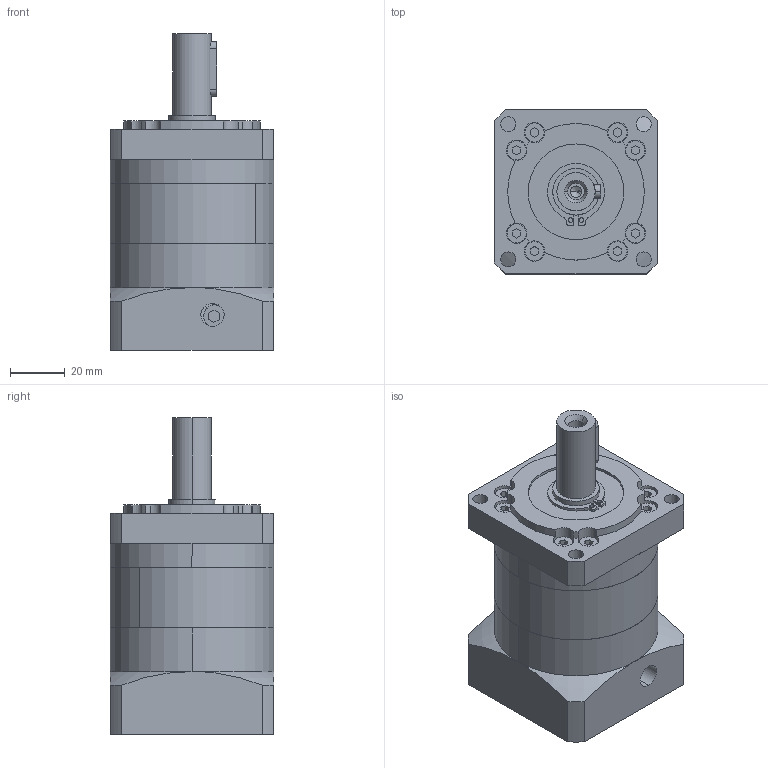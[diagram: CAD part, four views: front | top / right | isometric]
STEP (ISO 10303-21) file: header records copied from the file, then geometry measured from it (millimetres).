
FILE_DESCRIPTION (( 'STEP AP203' ), '1' );
FILE_NAME ('PLF060-L1-5-57-6.35x31.STEP', '2020-11-28T03:33:47', ( 'USER-' ), ( 'MS' ), 'SwSTEP 2.0', 'SolidWorks 2018', '' );
FILE_SCHEMA (( 'CONFIG_CONTROL_DESIGN' ));
Length unit declared in the file: millimetre
Products named in the file (9): PRF60-_B____-38.1-M4-66.6-____8_D8-50 D9-70 D10-M10 L4-22 L6-32(22+10) L7-4 A2-60 R-39.5 ____^PLF060-L1-5-57-8x31(2)_PLF060-L1-5-57-8x31; ______ 5x5x20^PLF060-L1-5-57-8x31(2)_PLF060-L1-5-57-8x31; ____-6004 20x42x12^PLF060-L1-5-57-8x31(2)_PLF060-L1-5-57-8x31; PLF060-L1-5-57-8x31(2)^PLF060-L1-5-57-8x31; PLF060-L1-5-57-6.35x31; __________ M5__16^PLF060-L1-5-57-8x31(2)_PLF060-L1-5-57-8x31; PRF60 _________________^PLF060-L1-5-57-8x31(2)_PLF060-L1-5-57-8x31; PRF60 ___w___D1-70 D2-5.5 D3-14 D4-17 D5-50 L1-30 L2-35 L3-3 A1-60 S1-3 S2-20 S3-5 S4-18 B-5 H-16 C-M5 ____^PLF060-L1-5-57-8x31(2)_PLF060-L1-5-57-8x31; PRF60 ___w__-8_D6-60 D7-14 ____^PLF060-L1-5-57-8x31(2)_PLF060-L1-5-57-8x31
Assembly tree (8 placements, depth 3):
  PLF060-L1-5-57-6.35x31
    PLF060-L1-5-57-8x31(2)^PLF060-L1-5-57-8x31
      __________ M5__16^PLF060-L1-5-57-8x31(2)_PLF060-L1-5-57-8x31
      PRF60 _________________^PLF060-L1-5-57-8x31(2)_PLF060-L1-5-57-8x31
      PRF60 ___w___D1-70 D2-5.5 D3-14 D4-17 D5-50 L1-30 L2-35 L3-3 A1-60 S1-3 S2-20 S3-5 S4-18 B-5 H-16 C-M5 ____^PLF060-L1-5-57-8x31(2)_PLF060-L1-5-57-8x31
      PRF60 ___w__-8_D6-60 D7-14 ____^PLF060-L1-5-57-8x31(2)_PLF060-L1-5-57-8x31
      PRF60-_B____-38.1-M4-66.6-____8_D8-50 D9-70 D10-M10 L4-22 L6-32(22+10) L7-4 A2-60 R-39.5 ____^PLF060-L1-5-57-8x31(2)_PLF060-L1-5-57-8x31
      ______ 5x5x20^PLF060-L1-5-57-8x31(2)_PLF060-L1-5-57-8x31
      ____-6004 20x42x12^PLF060-L1-5-57-8x31(2)_PLF060-L1-5-57-8x31
Bounding box: 60 x 60 x 116 mm (x, y, z)
Volume: 228947.4 mm3; surface area: 67625.8 mm2
Topology: 7 solids, 7 shells, 525 faces, 1452 edges, 925 vertices
Faces by surface type: cylinder 180, plane 177, sphere 108, torus 46, cone 14
Entity records: 21348 total; most frequent: CARTESIAN_POINT 7301, ORIENTED_EDGE 2776, DIRECTION 2752, EDGE_CURVE 1388, AXIS2_PLACEMENT_3D 1151, VERTEX_POINT 907, EDGE_LOOP 619, CIRCLE 614
